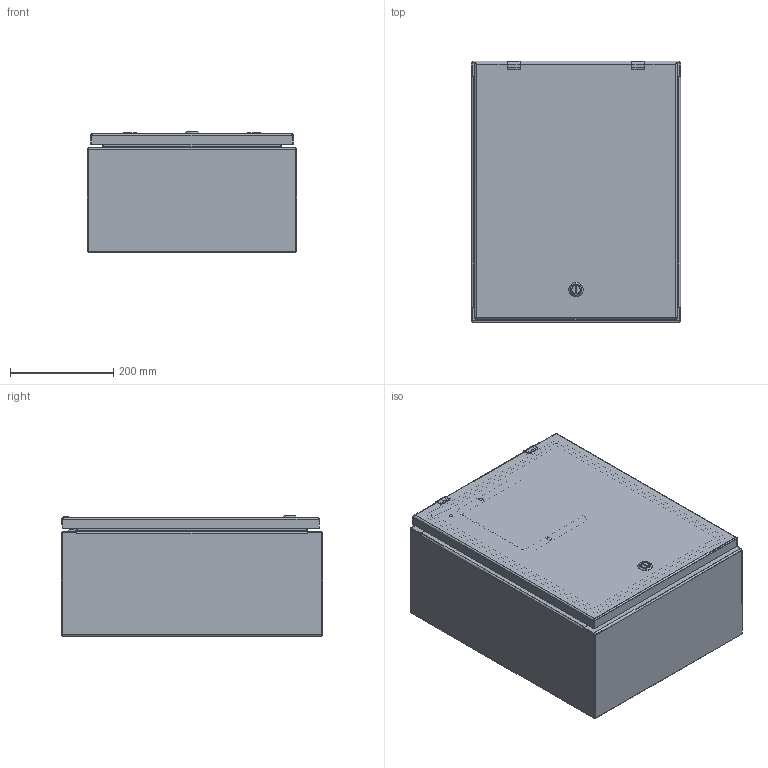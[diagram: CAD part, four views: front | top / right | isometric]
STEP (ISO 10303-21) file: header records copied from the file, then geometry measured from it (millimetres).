
FILE_DESCRIPTION((''),'2;1');
FILE_NAME('MODEL-308_ASM','2023-02-16T08:40:23',('johnh'),('SAGINAW CONTROL & ENGINEERING'),'CREO PARAMETRIC BY PTC INC, 2021284','CREO PARAMETRIC BY PTC INC, 2021284','');
FILE_SCHEMA(('AUTOMOTIVE_DESIGN { 1 0 10303 214 1 1 1 1 }'));
Length unit declared in the file: inch
Products named in the file (28): MODEL-308-BDY; MODEL-308-LS; MODEL-308-RS; MODEL-308-DR; 100837; 100882; 111541; 100794_SHAFT; 100794_INSERT; 100794_CAM; 100794_NUT; 100794_SCREW; 100794_ASM; MODEL-308-DOOR-GASKET; 126392; 126392_ASM; 126395; 102483; 101226; 101389; 102140; MODEL-308-DOOR-ASSY_ASM; 101651; 122191; SUBPANEL; 100904; SUBPANEL-SUBASSEMBLY_ASM; MODEL-308_ASM
Assembly tree (47 placements, depth 4):
  MODEL-308_ASM
    MODEL-308-BDY
    MODEL-308-LS
    MODEL-308-RS
    MODEL-308-DOOR-ASSY_ASM
      MODEL-308-DR
      100837  x3
      100882  x2
      111541
      100794_ASM
        100794_SHAFT
        100794_INSERT
        100794_CAM
        100794_NUT
        100794_SCREW
      MODEL-308-DOOR-GASKET
      126392_ASM  x2
        126392
      126395  x2
      102483  x6
      101226  x2
      101389  x2
      102140  x2
    100837
    101651  x4
    122191
    SUBPANEL-SUBASSEMBLY_ASM
      SUBPANEL
      100904  x4
Bounding box: 406.4 x 508 x 234.33 mm (x, y, z)
Volume: 2426878.6 mm3; surface area: 2251124.8 mm2
Topology: 44 solids, 44 shells, 2491 faces, 6341 edges, 3984 vertices
Faces by surface type: plane 1074, cylinder 660, bspline 420, torus 197, cone 88, sphere 52
Entity records: 79994 total; most frequent: CARTESIAN_POINT 23057, ORIENTED_EDGE 8194, DIRECTION 7658, PRESENTATION_STYLE_ASSIGNMENT 4294, EDGE_CURVE 4097, STYLED_ITEM 4019, CURVE_STYLE 3935, AXIS2_PLACEMENT_3D 2783
